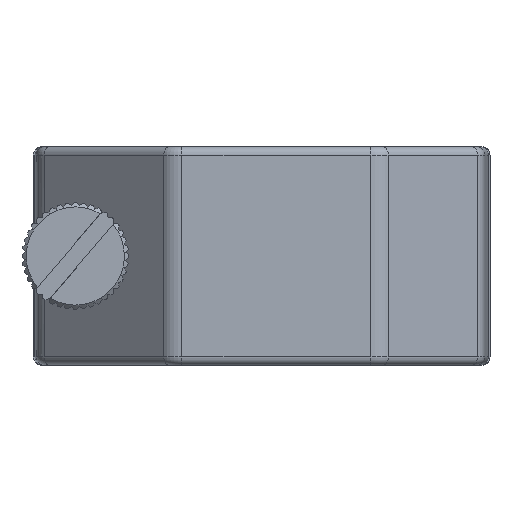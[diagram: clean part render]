
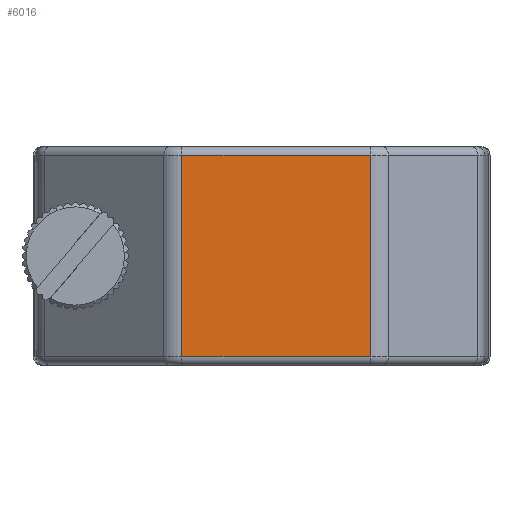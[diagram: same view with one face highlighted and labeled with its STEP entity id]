
A CAD part, left-side view. The second image highlights one B-rep face of the part: STEP entity #6016.
In plain terms, the highlighted planar face has unit normal (-1, -0.023, 0) as drawn and (-1, 0, 0) by its records, which use the part's own axes.
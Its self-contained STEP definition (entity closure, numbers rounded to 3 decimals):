
#167 = EDGE_CURVE ( 'NONE', #2233, #10184, #7556, .T. ) ;
#177 = ORIENTED_EDGE ( 'NONE', *, *, #1241, .T. ) ;
#188 = AXIS2_PLACEMENT_3D ( 'NONE', #9617, #10646, #4430 ) ;
#478 = ORIENTED_EDGE ( 'NONE', *, *, #167, .T. ) ;
#695 = CARTESIAN_POINT ( 'NONE',  ( -24.2, 11.257, 1. ) ) ;
#738 = ORIENTED_EDGE ( 'NONE', *, *, #2759, .T. ) ;
#1241 = EDGE_CURVE ( 'NONE', #10184, #6118, #8337, .T. ) ;
#1942 = VECTOR ( 'NONE', #6366, 1000. ) ;
#1969 = VECTOR ( 'NONE', #2764, 1000. ) ;
#2233 = VERTEX_POINT ( 'NONE', #8887 ) ;
#2340 = PLANE ( 'NONE',  #188 ) ;
#2759 = EDGE_CURVE ( 'NONE', #12561, #2233, #10255, .T. ) ;
#2764 = DIRECTION ( 'NONE',  ( 0., 0., -1. ) ) ;
#4430 = DIRECTION ( 'NONE',  ( 0., 1., 0. ) ) ;
#4602 = FACE_OUTER_BOUND ( 'NONE', #8029, .T. ) ;
#5212 = VECTOR ( 'NONE', #7902, 1000. ) ;
#6016 = ADVANCED_FACE ( 'NONE', ( #4602 ), #2340, .F. ) ;
#6118 = VERTEX_POINT ( 'NONE', #695 ) ;
#6366 = DIRECTION ( 'NONE',  ( 0., 0., 1. ) ) ;
#6653 = LINE ( 'NONE', #12234, #5212 ) ;
#7556 = LINE ( 'NONE', #10710, #8527 ) ;
#7902 = DIRECTION ( 'NONE',  ( 0., -1., 0. ) ) ;
#7994 = CARTESIAN_POINT ( 'NONE',  ( -24.2, -11.257, 1. ) ) ;
#8029 = EDGE_LOOP ( 'NONE', ( #738, #478, #177, #11537 ) ) ;
#8337 = LINE ( 'NONE', #12985, #1969 ) ;
#8527 = VECTOR ( 'NONE', #9686, 1000. ) ;
#8887 = CARTESIAN_POINT ( 'NONE',  ( -24.2, -11.257, 25. ) ) ;
#9461 = CARTESIAN_POINT ( 'NONE',  ( -24.2, -11.257, 26. ) ) ;
#9617 = CARTESIAN_POINT ( 'NONE',  ( -24.2, 12.5, 26. ) ) ;
#9686 = DIRECTION ( 'NONE',  ( 0., 1., 0. ) ) ;
#10095 = CARTESIAN_POINT ( 'NONE',  ( -24.2, 11.257, 25. ) ) ;
#10184 = VERTEX_POINT ( 'NONE', #10095 ) ;
#10255 = LINE ( 'NONE', #9461, #1942 ) ;
#10578 = EDGE_CURVE ( 'NONE', #6118, #12561, #6653, .T. ) ;
#10646 = DIRECTION ( 'NONE',  ( 1., 0., 0. ) ) ;
#10710 = CARTESIAN_POINT ( 'NONE',  ( -24.2, 11.257, 25. ) ) ;
#11537 = ORIENTED_EDGE ( 'NONE', *, *, #10578, .T. ) ;
#12234 = CARTESIAN_POINT ( 'NONE',  ( -24.2, 12.5, 1. ) ) ;
#12561 = VERTEX_POINT ( 'NONE', #7994 ) ;
#12985 = CARTESIAN_POINT ( 'NONE',  ( -24.2, 11.257, 26. ) ) ;
